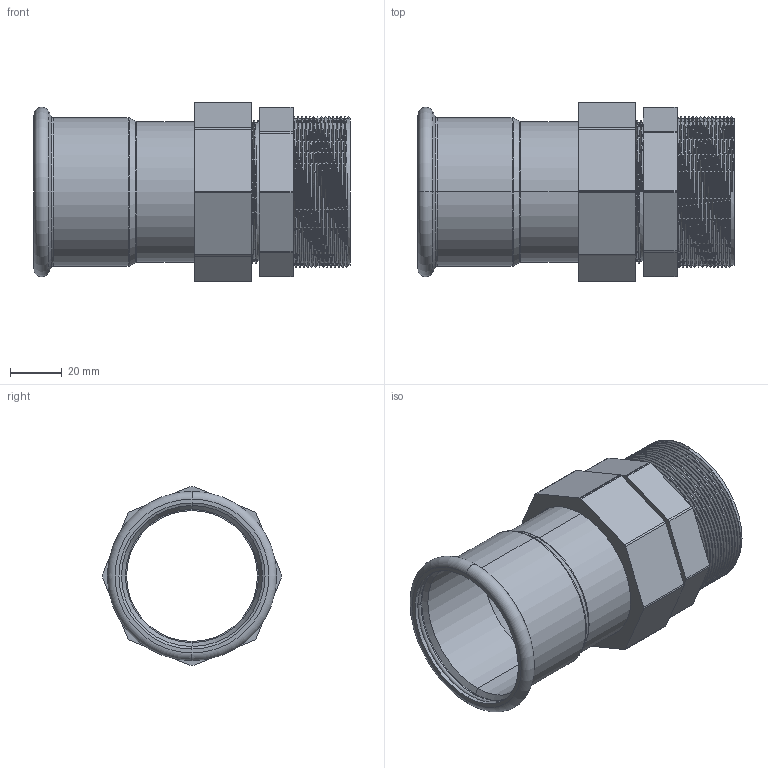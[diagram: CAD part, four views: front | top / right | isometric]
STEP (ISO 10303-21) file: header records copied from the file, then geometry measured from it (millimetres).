
FILE_DESCRIPTION (( 'STEP AP214' ), '1' );
FILE_NAME ('M54500K.STEP', '2025-08-17T07:03:36', ( '' ), ( '' ), 'SwSTEP 2.0', 'SolidWorks 2020', '' );
FILE_SCHEMA (( 'AUTOMOTIVE_DESIGN' ));
Length unit declared in the file: millimetre
Products named in the file (1): M54500K
Bounding box: 122 x 69.32 x 69.32 mm (x, y, z)
Volume: 70164.8 mm3; surface area: 60619.4 mm2
Topology: 3 solids, 3 shells, 160 faces, 411 edges, 261 vertices
Faces by surface type: cylinder 96, plane 31, torus 14, cone 10, bspline 9
Entity records: 11351 total; most frequent: CARTESIAN_POINT 5980, ORIENTED_EDGE 822, DIRECTION 689, EDGE_CURVE 411, AXIS2_PLACEMENT_3D 261, VERTEX_POINT 261, EDGE_LOOP 170, LINE 167
